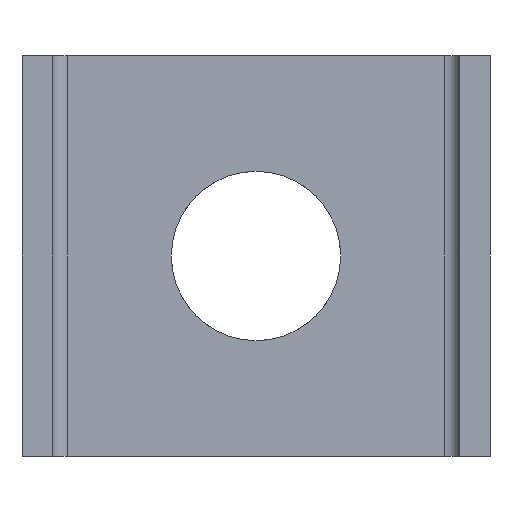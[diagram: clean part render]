
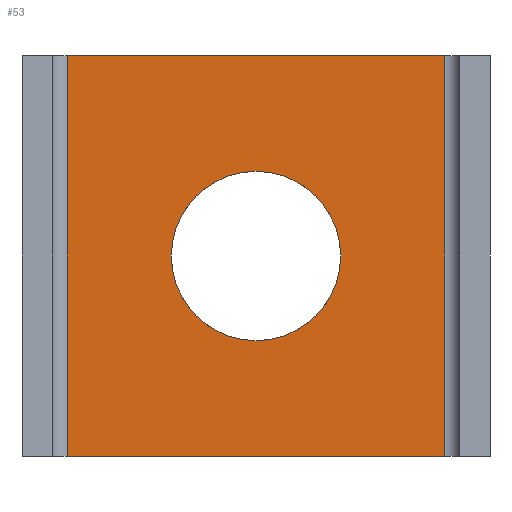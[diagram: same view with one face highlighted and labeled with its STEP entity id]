
A CAD part, front view. The second image highlights one B-rep face of the part: STEP entity #53.
In plain terms, the highlighted planar face has unit normal (0, -1, 0).
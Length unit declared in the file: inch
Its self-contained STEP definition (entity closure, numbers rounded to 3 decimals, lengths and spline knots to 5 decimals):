
#53=ADVANCED_FACE('',(#111,#112),#113,.T.);
#111=FACE_BOUND('',#188,.T.);
#112=FACE_OUTER_BOUND('',#189,.T.);
#113=PLANE('',#190);
#188=EDGE_LOOP('',(#302,#303,#304,#305));
#189=EDGE_LOOP('',(#306,#307,#308,#309));
#190=AXIS2_PLACEMENT_3D('',#310,#311,#312);
#302=ORIENTED_EDGE('',*,*,#440,.T.);
#303=ORIENTED_EDGE('',*,*,#441,.T.);
#304=ORIENTED_EDGE('',*,*,#442,.T.);
#305=ORIENTED_EDGE('',*,*,#431,.T.);
#306=ORIENTED_EDGE('',*,*,#443,.T.);
#307=ORIENTED_EDGE('',*,*,#444,.F.);
#308=ORIENTED_EDGE('',*,*,#445,.F.);
#309=ORIENTED_EDGE('',*,*,#426,.T.);
#310=CARTESIAN_POINT('',(0.88923,0.34935,0.0));
#311=DIRECTION('',(0.0,-1.0,0.0));
#312=DIRECTION('',(1.0,0.0,-0.0));
#426=EDGE_CURVE('',#499,#497,#500,.T.);
#431=EDGE_CURVE('',#506,#507,#508,.T.);
#440=EDGE_CURVE('',#507,#521,#522,.T.);
#441=EDGE_CURVE('',#521,#523,#524,.T.);
#442=EDGE_CURVE('',#523,#506,#525,.T.);
#443=EDGE_CURVE('',#497,#526,#527,.T.);
#444=EDGE_CURVE('',#528,#526,#529,.T.);
#445=EDGE_CURVE('',#499,#528,#530,.T.);
#497=VERTEX_POINT('',#600);
#499=VERTEX_POINT('',#605);
#500=LINE('',#606,#607);
#506=VERTEX_POINT('',#617);
#507=VERTEX_POINT('',#618);
#508=B_SPLINE_CURVE_WITH_KNOTS('',3,(#619,#620,#621,#622),.UNSPECIFIED.,.F.,.F.,(4,4),(0.0,1.0),.UNSPECIFIED.);
#521=VERTEX_POINT('',#643);
#522=B_SPLINE_CURVE_WITH_KNOTS('',3,(#644,#645,#646,#647),.UNSPECIFIED.,.F.,.F.,(4,4),(0.0,1.0),.UNSPECIFIED.);
#523=VERTEX_POINT('',#648);
#524=B_SPLINE_CURVE_WITH_KNOTS('',3,(#649,#650,#651,#652),.UNSPECIFIED.,.F.,.F.,(4,4),(0.0,1.0),.UNSPECIFIED.);
#525=B_SPLINE_CURVE_WITH_KNOTS('',3,(#653,#654,#655,#656),.UNSPECIFIED.,.F.,.F.,(4,4),(0.0,1.0),.UNSPECIFIED.);
#526=VERTEX_POINT('',#657);
#527=LINE('',#658,#659);
#528=VERTEX_POINT('',#660);
#529=LINE('',#661,#662);
#530=LINE('',#663,#664);
#600=CARTESIAN_POINT('',(1.65615,0.34935,1.625));
#605=CARTESIAN_POINT('',(1.65615,0.34935,0.0));
#606=CARTESIAN_POINT('',(1.65615,0.34935,0.0));
#607=VECTOR('',#768,1.0);
#617=CARTESIAN_POINT('',(0.88923,0.34935,0.46875));
#618=CARTESIAN_POINT('',(0.54548,0.34935,0.8125));
#619=CARTESIAN_POINT('',(0.88923,0.34935,0.46875));
#620=CARTESIAN_POINT('',(0.69938,0.34935,0.46875));
#621=CARTESIAN_POINT('',(0.54548,0.34935,0.62265));
#622=CARTESIAN_POINT('',(0.54548,0.34935,0.8125));
#643=CARTESIAN_POINT('',(0.88923,0.34935,1.15625));
#644=CARTESIAN_POINT('',(0.54548,0.34935,0.8125));
#645=CARTESIAN_POINT('',(0.54548,0.34935,1.00235));
#646=CARTESIAN_POINT('',(0.69938,0.34935,1.15625));
#647=CARTESIAN_POINT('',(0.88923,0.34935,1.15625));
#648=CARTESIAN_POINT('',(1.23298,0.34935,0.8125));
#649=CARTESIAN_POINT('',(0.88923,0.34935,1.15625));
#650=CARTESIAN_POINT('',(1.07908,0.34935,1.15625));
#651=CARTESIAN_POINT('',(1.23298,0.34935,1.00235));
#652=CARTESIAN_POINT('',(1.23298,0.34935,0.8125));
#653=CARTESIAN_POINT('',(1.23298,0.34935,0.8125));
#654=CARTESIAN_POINT('',(1.23298,0.34935,0.62265));
#655=CARTESIAN_POINT('',(1.07908,0.34935,0.46875));
#656=CARTESIAN_POINT('',(0.88923,0.34935,0.46875));
#657=CARTESIAN_POINT('',(0.12231,0.34935,1.625));
#658=CARTESIAN_POINT('',(1.65615,0.34935,1.625));
#659=VECTOR('',#775,1.0);
#660=CARTESIAN_POINT('',(0.12231,0.34935,0.0));
#661=CARTESIAN_POINT('',(0.12231,0.34935,0.0));
#662=VECTOR('',#776,1.0);
#663=CARTESIAN_POINT('',(1.65615,0.34935,0.0));
#664=VECTOR('',#777,1.0);
#768=DIRECTION('',(0.0,0.0,1.0));
#775=DIRECTION('',(-1.0,0.0,0.0));
#776=DIRECTION('',(0.0,0.0,1.0));
#777=DIRECTION('',(-1.0,0.0,0.0));
